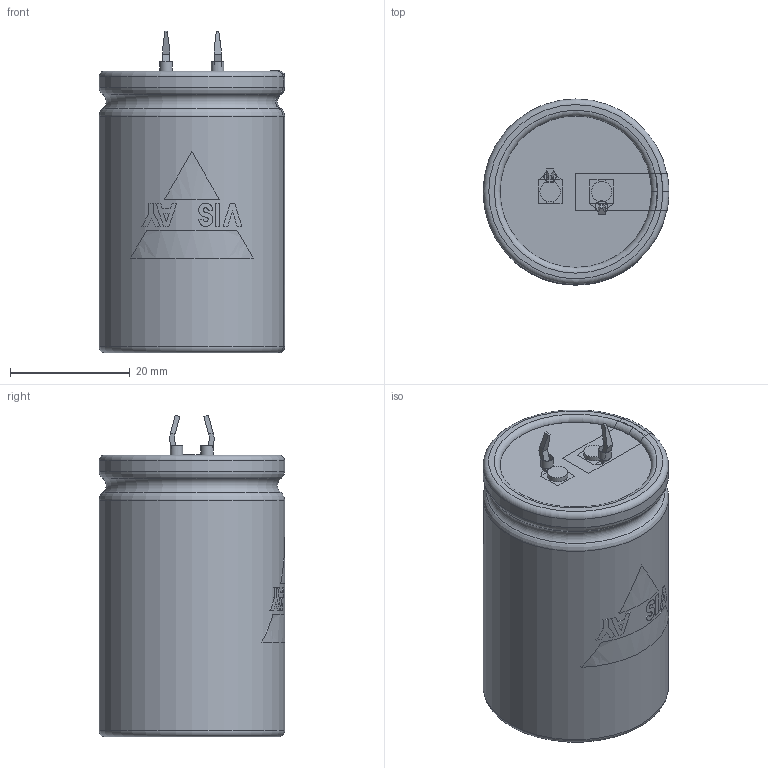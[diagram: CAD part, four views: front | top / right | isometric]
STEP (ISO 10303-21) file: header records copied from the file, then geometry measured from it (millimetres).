
FILE_DESCRIPTION(('FreeCAD Model'),'2;1');
FILE_NAME( 'C:/Users/Gebruiker/Documents/FreeCAD/SnapIn_30x45_2pin_5.8.step', '2020-11-12T20:25:12',('Author'),(''), 'Open CASCADE STEP processor 6.8','FreeCAD','Unknown');
FILE_SCHEMA(('AUTOMOTIVE_DESIGN_CC2 { 1 2 10303 214 -1 1 5 4 }'));
Length unit declared in the file: millimetre
Products named in the file (9): ASSEMBLY; TerminalMin; TerminalPlus; PCBHoles; Disc; BottomInsulation; Can3D; InkMinusBar; InkLogo
Assembly tree (8 placements, depth 2):
  ASSEMBLY
    TerminalMin
    TerminalPlus
    PCBHoles
    Disc
    BottomInsulation
    Can3D
    InkMinusBar
    InkLogo
Bounding box: 31.05 x 31.05 x 53.75 mm (x, y, z)
Volume: 40048.4 mm3; surface area: 14218 mm2
Topology: 15 solids, 15 shells, 193 faces, 485 edges, 319 vertices
Faces by surface type: plane 147, cylinder 28, torus 18
Full cylindrical faces by diameter (mm): 2 x2, 2.1 x2, 3.4 x2, 24.8 x2, 25.3 x1, 31 x2
Entity records: 20588 total; most frequent: CARTESIAN_POINT 9786, DIRECTION 1680, ORIENTED_EDGE 970, PCURVE 970, DEFINITIONAL_REPRESENTATION 970, LINE 955, VECTOR 955, EDGE_CURVE 485
